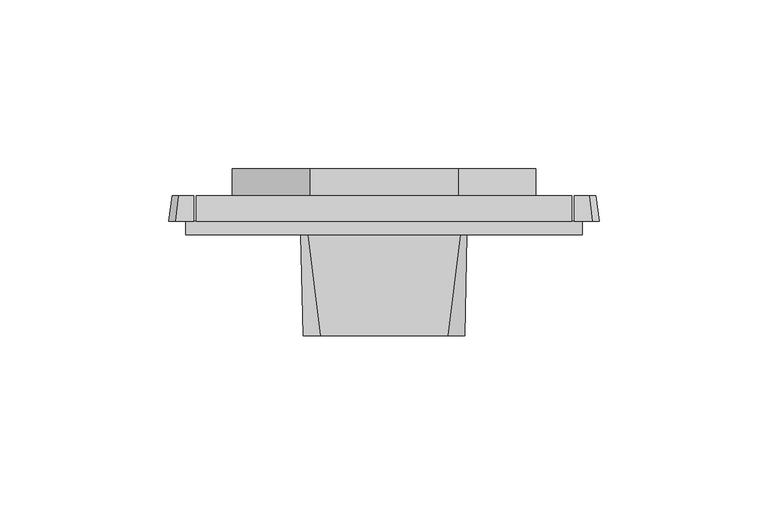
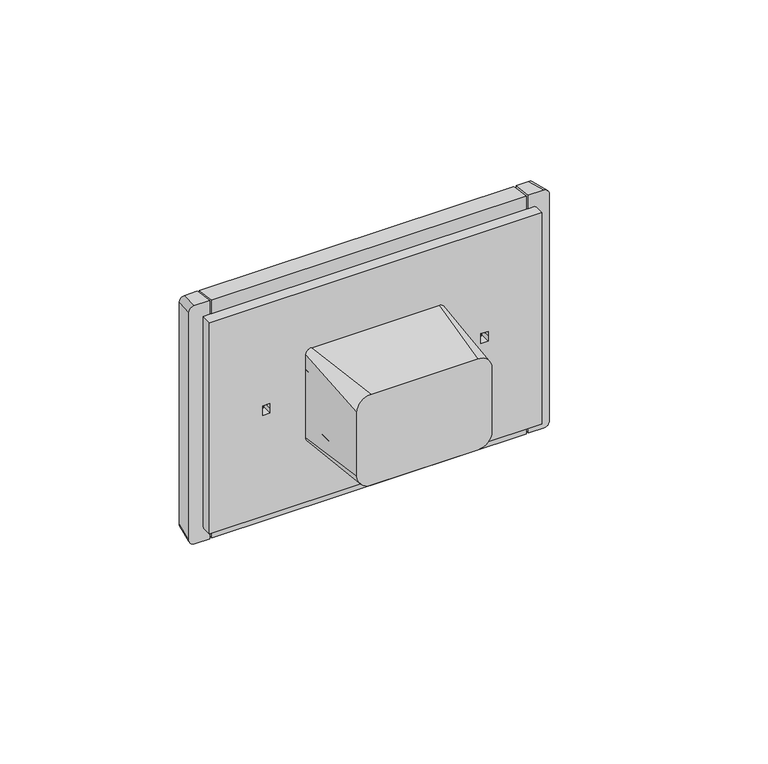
"""IFC4 building model written with IfcOpenShell, lengths in millimetres: proxy geometry, IEK_Forte&Piano_Розекта 2гн : 230 В PE+шт._FP123."""

from ifc_helpers import new_model, si_unit, point, frame, frame_2d, origin, place, context, project, spatial, polyline, circle_curve, ellipse_curve, trimmed, segment, composite_curve, outline, extrude, source, transform, mapped, element, save
from ifc_brep_helpers import plane_surface, cylinder_surface, revolved_surface, extruded_surface, spline_surface, advanced_brep


def electrical_fixtures_8a3553a3(model_context):
    return source(origin(), model_context, "Body", "SolidModel", [
        extrude(outline(composite_curve([segment(polyline([(-16.488464, 23.7980592), (-19.7261959, 23.7980592)]), True, "CONTINUOUS"), segment(trimmed(circle_curve(frame_2d((0.0, 20.5)), 20.0), [point((-19.7261959, 23.7980592))], [point((-16.488464, 31.8194768))], False, "CARTESIAN"), True, "CONTINUOUS"), segment(polyline([(-16.488464, 31.8194768), (-16.488464, 23.7980592)]), True, "CONTINUOUS")], self_intersect=False)), frame((0.0, 3.5, 0.0), z_axis=(0.0, 1.0, 0.0), x_axis=(0.0, 0.0, 1.0)), (0.0, 0.0, 1.0), 11.7142117),
        extrude(outline(composite_curve([segment(polyline([(-16.488464, 17.2019408), (-16.488464, 9.1805232)]), True, "CONTINUOUS"), segment(trimmed(circle_curve(frame_2d((0.0, 20.5)), 20.0), [point((-16.488464, 9.1805232))], [point((-19.7261959, 17.2019408))], False, "CARTESIAN"), True, "CONTINUOUS"), segment(polyline([(-19.7261959, 17.2019408), (-16.488464, 17.2019408)]), True, "CONTINUOUS")], self_intersect=False)), frame((0.0, 3.5, 0.0), z_axis=(0.0, 1.0, 0.0), x_axis=(0.0, 0.0, 1.0)), (0.0, 0.0, 1.0), 11.7142117),
        extrude(outline(composite_curve([segment(polyline([(16.488464, 23.7980592), (16.488464, 31.8194768)]), True, "CONTINUOUS"), segment(trimmed(circle_curve(frame_2d((0.0, 20.5)), 20.0), [point((16.488464, 31.8194768))], [point((19.7261959, 23.7980592))], False, "CARTESIAN"), True, "CONTINUOUS"), segment(polyline([(19.7261959, 23.7980592), (16.488464, 23.7980592)]), True, "CONTINUOUS")], self_intersect=False)), frame((0.0, 3.5, 0.0), z_axis=(0.0, 1.0, 0.0), x_axis=(0.0, 0.0, 1.0)), (0.0, 0.0, 1.0), 11.7142117),
        extrude(outline(composite_curve([segment(polyline([(16.488464, 17.2019408), (19.7261959, 17.2019408)]), True, "CONTINUOUS"), segment(trimmed(circle_curve(frame_2d((0.0, 20.5)), 20.0), [point((19.7261959, 17.2019408))], [point((16.488464, 9.1805232))], False, "CARTESIAN"), True, "CONTINUOUS"), segment(polyline([(16.488464, 9.1805232), (16.488464, 17.2019408)]), True, "CONTINUOUS")], self_intersect=False)), frame((0.0, 3.5, 0.0), z_axis=(0.0, 1.0, 0.0), x_axis=(0.0, 0.0, 1.0)), (0.0, 0.0, 1.0), 11.7142117),
        extrude(outline(composite_curve([segment(polyline([(-16.488464, -17.2019408), (-19.7261959, -17.2019408)]), True, "CONTINUOUS"), segment(trimmed(circle_curve(frame_2d((0.0, -20.5)), 20.0), [point((-19.7261959, -17.2019408))], [point((-16.488464, -9.1805232))], False, "CARTESIAN"), True, "CONTINUOUS"), segment(polyline([(-16.488464, -9.1805232), (-16.488464, -17.2019408)]), True, "CONTINUOUS")], self_intersect=False)), frame((0.0, 3.5, 0.0), z_axis=(0.0, 1.0, 0.0), x_axis=(0.0, 0.0, 1.0)), (0.0, 0.0, 1.0), 11.7142117),
        extrude(outline(composite_curve([segment(polyline([(-16.488464, -23.7980592), (-16.488464, -31.8194768)]), True, "CONTINUOUS"), segment(trimmed(circle_curve(frame_2d((0.0, -20.5)), 20.0), [point((-16.488464, -31.8194768))], [point((-19.7261959, -23.7980592))], False, "CARTESIAN"), True, "CONTINUOUS"), segment(polyline([(-19.7261959, -23.7980592), (-16.488464, -23.7980592)]), True, "CONTINUOUS")], self_intersect=False)), frame((0.0, 3.5, 0.0), z_axis=(0.0, 1.0, 0.0), x_axis=(0.0, 0.0, 1.0)), (0.0, 0.0, 1.0), 11.7142117),
        extrude(outline(composite_curve([segment(polyline([(16.488464, -17.2019408), (16.488464, -9.1805232)]), True, "CONTINUOUS"), segment(trimmed(circle_curve(frame_2d((0.0, -20.5)), 20.0), [point((16.488464, -9.1805232))], [point((19.7261959, -17.2019408))], False, "CARTESIAN"), True, "CONTINUOUS"), segment(polyline([(19.7261959, -17.2019408), (16.488464, -17.2019408)]), True, "CONTINUOUS")], self_intersect=False)), frame((0.0, 3.5, 0.0), z_axis=(0.0, 1.0, 0.0), x_axis=(0.0, 0.0, 1.0)), (0.0, 0.0, 1.0), 11.7142117),
        extrude(outline(composite_curve([segment(polyline([(16.488464, -23.7980592), (19.7261959, -23.7980592)]), True, "CONTINUOUS"), segment(trimmed(circle_curve(frame_2d((0.0, -20.5)), 20.0), [point((19.7261959, -23.7980592))], [point((16.488464, -31.8194768))], False, "CARTESIAN"), True, "CONTINUOUS"), segment(polyline([(16.488464, -31.8194768), (16.488464, -23.7980592)]), True, "CONTINUOUS")], self_intersect=False)), frame((0.0, 3.5, 0.0), z_axis=(0.0, 1.0, 0.0), x_axis=(0.0, 0.0, 1.0)), (0.0, 0.0, 1.0), 11.7142117),
        advanced_brep(
        [(18.8462421, -30.0, -17.0), (23.8462421, -30.0, -12.0), (23.8462421, -30.0, 12.0), (18.8462421, -30.0, 17.0), (-18.8537225, -30.0, 17.0), (-23.8537225, -30.0, 12.0), (-23.8537225, -30.0, -12.0), (-18.8537225, -30.0, -17.0), (22.5422228, 0.0, -17.5), (-22.5960064, 0.0, -17.5), (-24.5960064, 0.0, -15.5), (-24.5960064, 0.0, 15.5), (-22.5960064, 0.0, 17.5), (22.5422228, 0.0, 17.5), (24.5422228, 0.0, 15.5), (24.5422228, 0.0, -15.5), (20.5, 0.0, -6.3904783), (20.5, 0.0, -11.8753617), (20.5, 0.0, 3.0105286), (20.5, 0.0, -3.0105286), (20.5, 0.0, 11.8753617), (20.5, 0.0, 6.3904783), (1.1719153, 0.0, -1.7917908), (3.6719153, 0.0, -1.7917908), (3.6719153, 0.0, 0.0), (3.6719153, 0.0, 1.7917908), (1.1719153, 0.0, 1.7917908), (1.1719153, 0.0, 0.0), (-20.5, 0.0, -6.3904783), (-20.5, 0.0, -11.8753617), (-20.5, 0.0, 3.0105286), (-20.5, 0.0, -3.0105286), (-20.5, 0.0, 11.8753617), (-20.5, 0.0, 6.3904783), (-1.1719153, 0.0, -1.7917908), (-1.1719153, 0.0, 0.0), (-1.1719153, 0.0, 1.7917908), (-3.6719153, 0.0, 1.7917908), (-3.6719153, 0.0, 0.0), (-3.6719153, 0.0, -1.7917908), (20.5, -10.4962918, -6.3904783), (20.5, -10.4962918, -11.8753617), (20.5, -10.4962918, 3.0105286), (20.5, -10.4962918, -3.0105286), (20.5, -10.4962918, 11.8753617), (20.5, -10.4962918, 6.3904783), (1.1719153, -10.4962918, -1.7917908), (1.1719153, -10.4962918, 0.0), (1.1719153, -10.4962918, 1.7917908), (3.6719153, -10.4962918, 1.7917908), (3.6719153, -10.4962918, 0.0), (3.6719153, -10.4962918, -1.7917908), (-20.5, -10.4962918, -6.3904783), (-20.5, -10.4962918, -11.8753617), (-20.5, -10.4962918, 3.0105286), (-20.5, -10.4962918, -3.0105286), (-20.5, -10.4962918, 11.8753617), (-20.5, -10.4962918, 6.3904783), (-1.1719153, -10.4962918, -1.7917908), (-3.6719153, -10.4962918, -1.7917908), (-3.6719153, -10.4962918, 0.0), (-3.6719153, -10.4962918, 1.7917908), (-1.1719153, -10.4962918, 1.7917908), (-1.1719153, -10.4962918, 0.0)],
        [
            (0, 1, circle_curve(frame((18.8462421, -30.0, -12.0), z_axis=(0.0, -1.0, 0.0), x_axis=(0.0, 0.0, -1.0)), 5.0)),
            (1, 2),
            (2, 3, circle_curve(frame((18.8462421, -30.0, 12.0), z_axis=(0.0, -1.0, 0.0), x_axis=(0.0, 0.0, -1.0)), 5.0)),
            (3, 4),
            (4, 5, circle_curve(frame((-18.8537225, -30.0, 12.0), z_axis=(0.0, -1.0, 0.0), x_axis=(0.0, 0.0, -1.0)), 5.0)),
            (5, 6),
            (6, 7, circle_curve(frame((-18.8537225, -30.0, -12.0), z_axis=(0.0, -1.0, 0.0), x_axis=(0.0, 0.0, -1.0)), 5.0)),
            (7, 0),
            (8, 9),
            (9, 10, circle_curve(frame((-22.5960064, 0.0, -15.5), z_axis=(0.0, 1.0, 0.0), x_axis=(0.0, 0.0, -1.0)), 2.0)),
            (10, 11),
            (11, 12, circle_curve(frame((-22.5960064, 0.0, 15.5), z_axis=(0.0, 1.0, 0.0), x_axis=(0.0, 0.0, -1.0)), 2.0)),
            (12, 13),
            (13, 14, circle_curve(frame((22.5422228, 0.0, 15.5), z_axis=(0.0, 1.0, 0.0), x_axis=(0.0, 0.0, -1.0)), 2.0)),
            (14, 15),
            (15, 8, circle_curve(frame((22.5422228, 0.0, -15.5), z_axis=(0.0, 1.0, 0.0), x_axis=(0.0, 0.0, -1.0)), 2.0)),
            (16, 17, circle_curve(frame((20.5, 0.0, -9.13292), z_axis=(0.0, -1.0, 0.0), x_axis=(0.0, 0.0, -1.0)), 2.7424417)),
            (17, 16, circle_curve(frame((20.5, 0.0, -9.13292), z_axis=(0.0, -1.0, 0.0), x_axis=(0.0, 0.0, -1.0)), 2.7424417)),
            (18, 19, circle_curve(frame((20.5, 0.0, 0.0), z_axis=(0.0, -1.0, 0.0), x_axis=(0.0, 0.0, -1.0)), 3.0105286)),
            (19, 18, circle_curve(frame((20.5, 0.0, 0.0), z_axis=(0.0, -1.0, 0.0), x_axis=(0.0, 0.0, -1.0)), 3.0105286)),
            (20, 21, circle_curve(frame((20.5, 0.0, 9.13292), z_axis=(0.0, -1.0, 0.0), x_axis=(0.0, 0.0, -1.0)), 2.7424417)),
            (21, 20, circle_curve(frame((20.5, 0.0, 9.13292), z_axis=(0.0, -1.0, 0.0), x_axis=(0.0, 0.0, -1.0)), 2.7424417)),
            (22, 23),
            (23, 24),
            (24, 25),
            (25, 26),
            (26, 27),
            (27, 22),
            (28, 29, circle_curve(frame((-20.5, 0.0, -9.13292), z_axis=(0.0, -1.0, 0.0), x_axis=(0.0, 0.0, -1.0)), 2.7424417)),
            (29, 28, circle_curve(frame((-20.5, 0.0, -9.13292), z_axis=(0.0, -1.0, 0.0), x_axis=(0.0, 0.0, -1.0)), 2.7424417)),
            (30, 31, circle_curve(frame((-20.5, 0.0, 0.0), z_axis=(0.0, -1.0, 0.0), x_axis=(0.0, 0.0, -1.0)), 3.0105286)),
            (31, 30, circle_curve(frame((-20.5, 0.0, 0.0), z_axis=(0.0, -1.0, 0.0), x_axis=(0.0, 0.0, -1.0)), 3.0105286)),
            (32, 33, circle_curve(frame((-20.5, 0.0, 9.13292), z_axis=(0.0, -1.0, 0.0), x_axis=(0.0, 0.0, -1.0)), 2.7424417)),
            (33, 32, circle_curve(frame((-20.5, 0.0, 9.13292), z_axis=(0.0, -1.0, 0.0), x_axis=(0.0, 0.0, -1.0)), 2.7424417)),
            (34, 35),
            (35, 36),
            (36, 37),
            (37, 38),
            (38, 39),
            (39, 34),
            (7, 9),
            (8, 0),
            (6, 10),
            (5, 11),
            (4, 12),
            (3, 13),
            (15, 1),
            (14, 2),
            (40, 41, circle_curve(frame((20.5, -10.4962918, -9.13292), z_axis=(0.0, 1.0, 0.0), x_axis=(0.0, 0.0, -1.0)), 2.7424417)),
            (41, 40, circle_curve(frame((20.5, -10.4962918, -9.13292), z_axis=(0.0, 1.0, 0.0), x_axis=(0.0, 0.0, -1.0)), 2.7424417)),
            (42, 43, circle_curve(frame((20.5, -10.4962918, 0.0), z_axis=(0.0, 1.0, 0.0), x_axis=(0.0, 0.0, -1.0)), 3.0105286)),
            (43, 42, circle_curve(frame((20.5, -10.4962918, 0.0), z_axis=(0.0, 1.0, 0.0), x_axis=(0.0, 0.0, -1.0)), 3.0105286)),
            (44, 45, circle_curve(frame((20.5, -10.4962918, 9.13292), z_axis=(0.0, 1.0, 0.0), x_axis=(0.0, 0.0, -1.0)), 2.7424417)),
            (45, 44, circle_curve(frame((20.5, -10.4962918, 9.13292), z_axis=(0.0, 1.0, 0.0), x_axis=(0.0, 0.0, -1.0)), 2.7424417)),
            (46, 47),
            (47, 48),
            (48, 49),
            (49, 50),
            (50, 51),
            (51, 46),
            (52, 53, circle_curve(frame((-20.5, -10.4962918, -9.13292), z_axis=(0.0, 1.0, 0.0), x_axis=(0.0, 0.0, -1.0)), 2.7424417)),
            (53, 52, circle_curve(frame((-20.5, -10.4962918, -9.13292), z_axis=(0.0, 1.0, 0.0), x_axis=(0.0, 0.0, -1.0)), 2.7424417)),
            (54, 55, circle_curve(frame((-20.5, -10.4962918, 0.0), z_axis=(0.0, 1.0, 0.0), x_axis=(0.0, 0.0, -1.0)), 3.0105286)),
            (55, 54, circle_curve(frame((-20.5, -10.4962918, 0.0), z_axis=(0.0, 1.0, 0.0), x_axis=(0.0, 0.0, -1.0)), 3.0105286)),
            (56, 57, circle_curve(frame((-20.5, -10.4962918, 9.13292), z_axis=(0.0, 1.0, 0.0), x_axis=(0.0, 0.0, -1.0)), 2.7424417)),
            (57, 56, circle_curve(frame((-20.5, -10.4962918, 9.13292), z_axis=(0.0, 1.0, 0.0), x_axis=(0.0, 0.0, -1.0)), 2.7424417)),
            (58, 59),
            (59, 60),
            (60, 61),
            (61, 62),
            (62, 63),
            (63, 58),
            (41, 17),
            (16, 40),
            (43, 19),
            (18, 42),
            (45, 21),
            (20, 44),
            (51, 23),
            (22, 46),
            (50, 24),
            (49, 25),
            (48, 26),
            (47, 27),
            (53, 29),
            (28, 52),
            (55, 31),
            (30, 54),
            (57, 33),
            (32, 56),
            (63, 35),
            (34, 58),
            (62, 36),
            (61, 37),
            (60, 38),
            (59, 39),
        ],
        [
            plane_surface(frame((-0.0037402, -30.0, 0.0), z_axis=(0.0, -1.0, 0.0), x_axis=(1.0, 0.0, 1.4992810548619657e-12))),
            plane_surface(frame((-0.0268918, 0.0, 0.0), z_axis=(0.0, 1.0, 0.0), x_axis=(1.0, 0.0, 1.4992810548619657e-12))),
            plane_surface(frame((-0.0268918, 0.0, -17.5), z_axis=(0.0, -0.016664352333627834, -0.9998611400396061), x_axis=(1.0, 0.0, 0.0))),
            spline_surface(2, 1, [[(-24.5960064, 0.0, -15.5), (-23.8537225, -30.0, -12.0)], [(-24.5960064, 0.0, -17.5), (-23.8537225, -30.0, -17.0)], [(-22.5960064, 0.0, -17.5), (-18.8537225, -30.0, -17.0)]], [3, 3], [2, 2], [0.0, 1.0], [0.0, 1.0], weights=[[1.0, 1.0], [0.7071067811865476, 0.7071067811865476], [1.0, 1.0]]),
            plane_surface(frame((-24.5960064, 0.0, 0.0), z_axis=(-0.9996940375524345, -0.02473522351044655, 0.0), x_axis=(0.0, 0.0, -1.0))),
            spline_surface(2, 1, [[(-22.5960064, 0.0, 17.5), (-18.8537225, -30.0, 17.0)], [(-24.5960064, 0.0, 17.5), (-23.8537225, -30.0, 17.0)], [(-24.5960064, 0.0, 15.5), (-23.8537225, -30.0, 12.0)]], [3, 3], [2, 2], [0.0, 1.0], [0.0, 1.0], weights=[[1.0, 1.0], [0.7071067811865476, 0.7071067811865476], [1.0, 1.0]]),
            plane_surface(frame((-0.0268918, 0.0, 17.5), z_axis=(0.0, -0.016664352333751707, 0.999861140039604), x_axis=(-1.0, 0.0, 0.0))),
            spline_surface(2, 1, [[(22.5422228, 0.0, -17.5), (18.8462421, -30.0, -17.0)], [(24.5422228, 0.0, -17.5), (23.8462421, -30.0, -17.0)], [(24.5422228, 0.0, -15.5), (23.8462421, -30.0, -12.0)]], [3, 3], [2, 2], [0.0, 1.0], [0.0, 1.0], weights=[[1.0, 1.0], [0.7071067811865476, 0.7071067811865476], [1.0, 1.0]]),
            plane_surface(frame((24.5422228, 0.0, 0.0), z_axis=(0.9997310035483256, -0.023193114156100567, 0.0), x_axis=(0.0, 0.0, 1.0))),
            spline_surface(2, 1, [[(24.5422228, 0.0, 15.5), (23.8462421, -30.0, 12.0)], [(24.5422228, 0.0, 17.5), (23.8462421, -30.0, 17.0)], [(22.5422228, 0.0, 17.5), (18.8462421, -30.0, 17.0)]], [3, 3], [2, 2], [0.0, 1.0], [0.0, 1.0], weights=[[1.0, 1.0], [0.7071067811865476, 0.7071067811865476], [1.0, 1.0]]),
            plane_surface(frame((20.5, -10.4962918, -11.8753617), z_axis=(0.0, 1.0, 0.0), x_axis=(1.0, 0.0, 0.0))),
            revolved_surface(polyline([(20.5, -10.4962918, -11.875361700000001), (20.5, 0.0, -11.875361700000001)]), (20.5, 4.0, -9.13292), (0.0, -1.0, 0.0)),
            revolved_surface(polyline([(20.5, -10.4962918, -3.0105286), (20.5, 0.0, -3.0105286)]), (20.5, 1.0, 0.0), (0.0, -1.0, 0.0)),
            revolved_surface(polyline([(20.5, -10.4962918, 6.3904783), (20.5, 0.0, 6.3904783)]), (20.5, 1.0, 9.13292), (0.0, -1.0, 0.0)),
            plane_surface(frame((1.1719153, -10.4962918, -1.7917908), z_axis=(0.0, 0.0, 1.0), x_axis=(0.0, 1.0, 0.0))),
            plane_surface(frame((3.6719153, -10.4962918, -1.7917908), z_axis=(-1.0, 0.0, 0.0), x_axis=(0.0, 1.0, 0.0))),
            plane_surface(frame((3.6719153, -10.4962918, 0.0), z_axis=(-1.0, 0.0, 0.0), x_axis=(0.0, 1.0, 0.0))),
            plane_surface(frame((3.6719153, -10.4962918, 1.7917908), z_axis=(0.0, 0.0, -1.0), x_axis=(0.0, 1.0, 0.0))),
            plane_surface(frame((1.1719153, -10.4962918, 1.7917908), z_axis=(1.0, 0.0, 0.0), x_axis=(0.0, 1.0, 0.0))),
            plane_surface(frame((1.1719153, -10.4962918, 0.0), z_axis=(1.0, 0.0, 0.0), x_axis=(0.0, 1.0, 0.0))),
            revolved_surface(polyline([(-20.5, -10.4962918, -11.875361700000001), (-20.5, 0.0, -11.875361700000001)]), (-20.5, 1.0, -9.13292), (0.0, -1.0, 0.0)),
            revolved_surface(polyline([(-20.5, -10.4962918, -3.0105286), (-20.5, 0.0, -3.0105286)]), (-20.5, 1.0, 0.0), (0.0, -1.0, 0.0)),
            revolved_surface(polyline([(-20.5, -10.4962918, 6.3904783), (-20.5, 0.0, 6.3904783)]), (-20.5, 1.0, 9.13292), (0.0, -1.0, 0.0)),
            plane_surface(frame((-1.1719153, -10.4962918, -1.7917908), z_axis=(-1.0, 0.0, 0.0), x_axis=(0.0, 1.0, 0.0))),
            plane_surface(frame((-1.1719153, -10.4962918, 0.0), z_axis=(-1.0, 0.0, 0.0), x_axis=(0.0, 1.0, 0.0))),
            plane_surface(frame((-1.1719153, -10.4962918, 1.7917908), z_axis=(0.0, 0.0, -1.0), x_axis=(0.0, 1.0, 0.0))),
            plane_surface(frame((-3.6719153, -10.4962918, 1.7917908), z_axis=(1.0, 0.0, 0.0), x_axis=(0.0, 1.0, 0.0))),
            plane_surface(frame((-3.6719153, -10.4962918, 0.0), z_axis=(1.0, 0.0, 0.0), x_axis=(0.0, 1.0, 0.0))),
            plane_surface(frame((-3.6719153, -10.4962918, -1.7917908), z_axis=(0.0, 0.0, 1.0), x_axis=(0.0, 1.0, 0.0))),
        ],
        [
            (0, [[1, 2, 3, 4, 5, 6, 7, 8]]),
            (1, [[9, 10, 11, 12, 13, 14, 15, 16], [17, 18], [19, 20], [21, 22], [23, 24, 25, 26, 27, 28], [29, 30], [31, 32], [33, 34], [35, 36, 37, 38, 39, 40]]),
            (2, [[-8, 41, -9, 42]]),
            (3, [[-7, 43, -10, -41]]),
            (4, [[-6, 44, -11, -43]]),
            (5, [[-5, 45, -12, -44]]),
            (6, [[-4, 46, -13, -45]]),
            (7, [[-1, -42, -16, 47]]),
            (8, [[-2, -47, -15, 48]]),
            (9, [[-3, -48, -14, -46]]),
            (10, [[49, 50]]),
            (10, [[51, 52]]),
            (10, [[53, 54]]),
            (10, [[55, 56, 57, 58, 59, 60]]),
            (10, [[61, 62]]),
            (10, [[63, 64]]),
            (10, [[65, 66]]),
            (10, [[67, 68, 69, 70, 71, 72]]),
            (11, [[-50, 73, -17, 74]]),
            (11, [[-49, -74, -18, -73]]),
            (12, [[-52, 75, -19, 76]]),
            (12, [[-51, -76, -20, -75]]),
            (13, [[-54, 77, -21, 78]]),
            (13, [[-53, -78, -22, -77]]),
            (14, [[-60, 79, -23, 80]]),
            (15, [[-59, 81, -24, -79]]),
            (16, [[-58, 82, -25, -81]]),
            (17, [[-57, 83, -26, -82]]),
            (18, [[-56, 84, -27, -83]]),
            (19, [[-55, -80, -28, -84]]),
            (20, [[-62, 85, -29, 86]]),
            (20, [[-61, -86, -30, -85]]),
            (21, [[-64, 87, -31, 88]]),
            (21, [[-63, -88, -32, -87]]),
            (22, [[-66, 89, -33, 90]]),
            (22, [[-65, -90, -34, -89]]),
            (23, [[-72, 91, -35, 92]]),
            (24, [[-71, 93, -36, -91]]),
            (25, [[-70, 94, -37, -93]]),
            (26, [[-69, 95, -38, -94]]),
            (27, [[-68, 96, -39, -95]]),
            (28, [[-67, -92, -40, -96]]),
        ],
    ),
        advanced_brep(
        [(-20.5, 4.3649081, 0.0), (-17.6013083, 3.578125, 0.0), (-23.3986917, 3.578125, 0.0), (-17.6013083, 1.8, 0.0), (-23.3986917, 1.8, 0.0), (-20.5, 1.8, 0.0)],
        [
            (0, 1, ellipse_curve(frame((-20.34375, 3.578125, 0.0), z_axis=(0.0, 0.0, -1.0), x_axis=(1.0, 0.0, 0.0)), 2.7424417, 0.7880633)),
            (1, 2, circle_curve(frame((-20.5, 3.578125, 0.0), z_axis=(0.0, 1.0, 0.0), x_axis=(1.0, 0.0, 0.0)), 2.8986917)),
            (2, 0, ellipse_curve(frame((-20.65625, 3.578125, 0.0), z_axis=(0.0, 0.0, -1.0), x_axis=(-1.0, 0.0, 0.0)), 2.7424417, 0.7880633)),
            (2, 1, circle_curve(frame((-20.5, 3.578125, 0.0), z_axis=(0.0, 1.0, 0.0), x_axis=(1.0, 0.0, 0.0)), 2.8986917)),
            (1, 3),
            (3, 4, circle_curve(frame((-20.5, 1.8, 0.0), z_axis=(0.0, 1.0, 0.0), x_axis=(1.0, 0.0, 0.0)), 2.8986917)),
            (4, 2),
            (4, 3, circle_curve(frame((-20.5, 1.8, 0.0), z_axis=(0.0, 1.0, 0.0), x_axis=(1.0, 0.0, 0.0)), 2.8986917)),
            (3, 5),
            (5, 4),
        ],
        [
            revolved_surface(trimmed(ellipse_curve(frame((-20.34375, 3.578125, 0.0), z_axis=(0.0, 0.0, 1.0), x_axis=(1.0, 0.0, 0.0)), 2.7424417, 0.7880633), [point((-17.6013083, 3.578125, 0.0))], [point((-20.5, 4.3649081, 0.0))], True, "CARTESIAN"), (-20.5, 0.4771866, 0.0), (0.0, 1.0, 0.0)),
            cylinder_surface(frame((-20.5, 0.4771866, 0.0), z_axis=(0.0, 1.0, 0.0), x_axis=(1.0, 0.0, 0.0)), 2.8986917),
            plane_surface(frame((-20.5, 1.8, 0.0), z_axis=(0.0, -1.0, 0.0), x_axis=(1.0, 0.0, 0.0))),
        ],
        [
            (0, [[1, 2, 3]]),
            (0, [[-3, 4, -1]]),
            (1, [[-2, 5, 6, 7]]),
            (1, [[-4, -7, 8, -5]]),
            (2, [[-6, 9, 10]]),
            (2, [[-8, -10, -9]]),
        ],
    ),
        advanced_brep(
        [(20.5, 4.3649081, 0.0), (23.3986917, 3.578125, 0.0), (17.6013083, 3.578125, 0.0), (23.3986917, 1.8, 0.0), (17.6013083, 1.8, 0.0), (20.5, 1.8, 0.0)],
        [
            (0, 1, ellipse_curve(frame((20.65625, 3.578125, 0.0), z_axis=(0.0, 0.0, -1.0), x_axis=(1.0, 0.0, 0.0)), 2.7424417, 0.7880633)),
            (1, 2, circle_curve(frame((20.5, 3.578125, 0.0), z_axis=(0.0, 1.0, 0.0), x_axis=(1.0, 0.0, 0.0)), 2.8986917)),
            (2, 0, ellipse_curve(frame((20.34375, 3.578125, 0.0), z_axis=(0.0, 0.0, -1.0), x_axis=(-1.0, 0.0, 0.0)), 2.7424417, 0.7880633)),
            (2, 1, circle_curve(frame((20.5, 3.578125, 0.0), z_axis=(0.0, 1.0, 0.0), x_axis=(1.0, 0.0, 0.0)), 2.8986917)),
            (1, 3),
            (3, 4, circle_curve(frame((20.5, 1.8, 0.0), z_axis=(0.0, 1.0, 0.0), x_axis=(1.0, 0.0, 0.0)), 2.8986917)),
            (4, 2),
            (4, 3, circle_curve(frame((20.5, 1.8, 0.0), z_axis=(0.0, 1.0, 0.0), x_axis=(1.0, 0.0, 0.0)), 2.8986917)),
            (3, 5),
            (5, 4),
        ],
        [
            revolved_surface(trimmed(ellipse_curve(frame((20.65625, 3.578125, 0.0), z_axis=(0.0, 0.0, 1.0), x_axis=(1.0, 0.0, 0.0)), 2.7424417, 0.7880633), [point((23.3986917, 3.578125, 0.0))], [point((20.5, 4.3649081, 0.0))], True, "CARTESIAN"), (20.5, 0.4771866, 0.0), (0.0, 1.0, 0.0)),
            cylinder_surface(frame((20.5, 0.4771866, 0.0), z_axis=(0.0, 1.0, 0.0), x_axis=(1.0, 0.0, 0.0)), 2.8986917),
            plane_surface(frame((20.5, 1.8, 0.0), z_axis=(0.0, -1.0, 0.0), x_axis=(1.0, 0.0, 0.0))),
        ],
        [
            (0, [[1, 2, 3]]),
            (0, [[-3, 4, -1]]),
            (1, [[-2, 5, 6, 7]]),
            (1, [[-4, -7, 8, -5]]),
            (2, [[-6, 9, 10]]),
            (2, [[-8, -10, -9]]),
        ],
    ),
        extrude(outline(composite_curve([segment(trimmed(circle_curve(frame_2d((-39.7322549, 12.5501956)), 1.2539127), [point((-39.8739261, 13.7960794))], [point((-38.8510967, 11.6580873))], False, "CARTESIAN"), True, "CONTINUOUS"), segment(polyline([(-38.8510967, 11.6580873), (-37.8437766, 3.0), (-39.1024531, 3.0), (-39.8739261, 13.7960794)]), True, "CONTINUOUS")], self_intersect=False)), frame((0.0, 0.0, -1.5), z_axis=(0.0, 0.0, 1.0), x_axis=(1.0, 0.0, 0.0)), (0.0, 0.0, 1.0), 3.0),
        extrude(outline(composite_curve([segment(polyline([(-1.1260739, 13.7960794), (-1.9832973, 1.8), (-3.2958366, 1.8), (-2.1489033, 11.6580873)]), True, "CONTINUOUS"), segment(trimmed(circle_curve(frame_2d((-1.2677451, 12.5501956)), 1.2539127), [point((-2.1489033, 11.6580873))], [point((-1.1260739, 13.7960794))], False, "CARTESIAN"), True, "CONTINUOUS")], self_intersect=False)), frame((0.0, 0.0, -1.5), z_axis=(0.0, 0.0, 1.0), x_axis=(1.0, 0.0, 0.0)), (0.0, 0.0, 1.0), 3.0),
        extrude(outline(composite_curve([segment(polyline([(39.8739261, 13.7960794), (39.1024531, 3.0), (37.8437766, 3.0), (38.8510967, 11.6580873)]), True, "CONTINUOUS"), segment(trimmed(circle_curve(frame_2d((39.7322549, 12.5501956)), 1.2539127), [point((38.8510967, 11.6580873))], [point((39.8739261, 13.7960794))], False, "CARTESIAN"), True, "CONTINUOUS")], self_intersect=False)), frame((0.0, 0.0, -1.5), z_axis=(0.0, 0.0, 1.0), x_axis=(1.0, 0.0, 0.0)), (0.0, 0.0, 1.0), 3.0),
        extrude(outline(composite_curve([segment(trimmed(circle_curve(frame_2d((1.2677451, 12.5501956)), 1.2539127), [point((1.1260739, 13.7960794))], [point((2.1489033, 11.6580873))], False, "CARTESIAN"), True, "CONTINUOUS"), segment(polyline([(2.1489033, 11.6580873), (3.2958366, 1.8), (1.9832973, 1.8), (1.1260739, 13.7960794)]), True, "CONTINUOUS")], self_intersect=False)), frame((0.0, 0.0, -1.5), z_axis=(0.0, 0.0, 1.0), x_axis=(1.0, 0.0, 0.0)), (0.0, 0.0, 1.0), 3.0),
        advanced_brep(
        [(60.75, 11.5, 43.5), (62.75, 11.5, 41.5), (62.75, 11.5, -41.5), (60.75, 11.5, -43.5), (56.3576533, 11.5, -43.5), (56.3576533, 11.5, 43.5), (-60.75, 11.5, -43.5), (-62.75, 11.5, -41.5), (-62.75, 11.5, 41.5), (-60.75, 11.5, 43.5), (-56.3576533, 11.5, 43.5), (-56.3576533, 11.5, -43.5), (-55.5728499, 11.5, 43.5), (55.5728499, 11.5, 43.5), (55.5728499, 11.5, -43.5), (-55.5728499, 11.5, -43.5), (-0.5, 11.5, 0.0), (-40.5, 11.5, 0.0), (40.5, 11.5, 0.0), (0.5, 11.5, 0.0), (-61.75, 4.0, 44.5), (-63.75, 4.0, 42.5), (-63.75, 4.0, -42.5), (-61.75, 4.0, -44.5), (-56.3576533, 4.0, -44.5), (-56.3576533, 4.0, -39.5), (-58.75, 4.0, -39.5), (-58.75, 4.0, 39.5), (-56.3576533, 4.0, 39.5), (-56.3576533, 4.0, 44.5), (61.75, 4.0, -44.5), (63.75, 4.0, -42.5), (63.75, 4.0, 42.5), (61.75, 4.0, 44.5), (56.3576533, 4.0, 44.5), (56.3576533, 4.0, 39.5), (58.75, 4.0, 39.5), (58.75, 4.0, -39.5), (56.3576533, 4.0, -39.5), (56.3576533, 4.0, -44.5), (-55.5728499, 4.0, 39.5), (55.5728499, 4.0, 39.5), (55.5728499, 4.0, 44.5), (-55.5728499, 4.0, 44.5), (55.5728499, 4.0, -39.5), (-55.5728499, 4.0, -39.5), (-55.5728499, 4.0, -44.5), (55.5728499, 4.0, -44.5), (-58.75, 0.0, 39.5), (-58.75, 0.0, -39.5), (58.75, 0.0, -39.5), (58.75, 0.0, 39.5), (20.5, 0.0, -11.8753617), (20.5, 0.0, -6.3904783), (20.5, 0.0, -3.0105286), (20.5, 0.0, 3.0105286), (20.5, 0.0, 6.3904783), (20.5, 0.0, 11.8753617), (39.8280847, 0.0, 0.0), (39.8280847, 0.0, -1.7917908), (37.3280847, 0.0, -1.7917908), (37.3280847, 0.0, 0.0), (37.3280847, 0.0, 1.7917908), (39.8280847, 0.0, 1.7917908), (3.6719153, 0.0, -1.7917908), (1.1719153, 0.0, -1.7917908), (1.1719153, 0.0, 0.0), (1.1719153, 0.0, 1.7917908), (3.6719153, 0.0, 1.7917908), (3.6719153, 0.0, 0.0), (-20.5, 0.0, -11.8753617), (-20.5, 0.0, -6.3904783), (-20.5, 0.0, -3.0105286), (-20.5, 0.0, 3.0105286), (-20.5, 0.0, 6.3904783), (-20.5, 0.0, 11.8753617), (-37.3280847, 0.0, -1.7917908), (-39.8280847, 0.0, -1.7917908), (-39.8280847, 0.0, 0.0), (-39.8280847, 0.0, 1.7917908), (-37.3280847, 0.0, 1.7917908), (-37.3280847, 0.0, 0.0), (-1.1719153, 0.0, 0.0), (-1.1719153, 0.0, -1.7917908), (-3.6719153, 0.0, -1.7917908), (-3.6719153, 0.0, 0.0), (-3.6719153, 0.0, 1.7917908), (-1.1719153, 0.0, 1.7917908), (20.5, 3.5, -11.8753617), (20.5, 3.5, -6.3904783), (20.5, 3.5, -3.0105286), (20.5, 3.5, 3.0105286), (20.5, 3.5, 6.3904783), (20.5, 3.5, 11.8753617), (39.8280847, 3.5, 0.0), (39.8280847, 3.5, -1.7917908), (39.8280847, 3.5, 1.7917908), (37.3280847, 3.5, 1.7917908), (37.3280847, 3.5, 0.0), (37.3280847, 3.5, -1.7917908), (3.6719153, 3.5, -1.7917908), (1.1719153, 3.5, -1.7917908), (3.6719153, 3.5, 0.0), (3.6719153, 3.5, 1.7917908), (1.1719153, 3.5, 1.7917908), (1.1719153, 3.5, 0.0), (-20.5, 3.5, -11.8753617), (-20.5, 3.5, -6.3904783), (-20.5, 3.5, -3.0105286), (-20.5, 3.5, 3.0105286), (-20.5, 3.5, 6.3904783), (-20.5, 3.5, 11.8753617), (-37.3280847, 3.5, -1.7917908), (-39.8280847, 3.5, -1.7917908), (-37.3280847, 3.5, 0.0), (-37.3280847, 3.5, 1.7917908), (-39.8280847, 3.5, 1.7917908), (-39.8280847, 3.5, 0.0), (-1.1719153, 3.5, 0.0), (-1.1719153, 3.5, -1.7917908), (-1.1719153, 3.5, 1.7917908), (-3.6719153, 3.5, 1.7917908), (-3.6719153, 3.5, 0.0), (-3.6719153, 3.5, -1.7917908), (-0.5, 3.5, 0.0), (-40.5, 3.5, 0.0), (40.5, 3.5, 0.0), (0.5, 3.5, 0.0)],
        [
            (0, 1, circle_curve(frame((60.75, 11.5, 41.5), z_axis=(0.0, 1.0, 0.0), x_axis=(-1.0, 0.0, 0.0)), 2.0)),
            (1, 2),
            (2, 3, circle_curve(frame((60.75, 11.5, -41.5), z_axis=(0.0, 1.0, 0.0), x_axis=(-1.0, 0.0, 0.0)), 2.0)),
            (3, 4),
            (4, 5),
            (5, 0),
            (6, 7, circle_curve(frame((-60.75, 11.5, -41.5), z_axis=(0.0, 1.0, 0.0), x_axis=(-1.0, 0.0, 0.0)), 2.0)),
            (7, 8),
            (8, 9, circle_curve(frame((-60.75, 11.5, 41.5), z_axis=(0.0, 1.0, 0.0), x_axis=(-1.0, 0.0, 0.0)), 2.0)),
            (9, 10),
            (10, 11),
            (11, 6),
            (12, 13),
            (13, 14),
            (14, 15),
            (15, 12),
            (16, 17, circle_curve(frame((-20.5, 11.5, 0.0), z_axis=(0.0, -1.0, 0.0), x_axis=(-1.0, 0.0, 0.0)), 20.0)),
            (17, 16, circle_curve(frame((-20.5, 11.5, 0.0), z_axis=(0.0, -1.0, 0.0), x_axis=(-1.0, 0.0, 0.0)), 20.0)),
            (18, 19, circle_curve(frame((20.5, 11.5, 0.0), z_axis=(0.0, -1.0, 0.0), x_axis=(-1.0, 0.0, 0.0)), 20.0)),
            (19, 18, circle_curve(frame((20.5, 11.5, 0.0), z_axis=(0.0, -1.0, 0.0), x_axis=(-1.0, 0.0, 0.0)), 20.0)),
            (20, 21, circle_curve(frame((-61.75, 4.0, 42.5), z_axis=(0.0, -1.0, 0.0), x_axis=(-1.0, 0.0, 0.0)), 2.0)),
            (21, 22),
            (22, 23, circle_curve(frame((-61.75, 4.0, -42.5), z_axis=(0.0, -1.0, 0.0), x_axis=(-1.0, 0.0, 0.0)), 2.0)),
            (23, 24),
            (24, 25),
            (25, 26),
            (26, 27),
            (27, 28),
            (28, 29),
            (29, 20),
            (30, 31, circle_curve(frame((61.75, 4.0, -42.5), z_axis=(0.0, -1.0, 0.0), x_axis=(-1.0, 0.0, 0.0)), 2.0)),
            (31, 32),
            (32, 33, circle_curve(frame((61.75, 4.0, 42.5), z_axis=(0.0, -1.0, 0.0), x_axis=(-1.0, 0.0, 0.0)), 2.0)),
            (33, 34),
            (34, 35),
            (35, 36),
            (36, 37),
            (37, 38),
            (38, 39),
            (39, 30),
            (40, 41),
            (41, 42),
            (42, 43),
            (43, 40),
            (44, 45),
            (45, 46),
            (46, 47),
            (47, 44),
            (12, 43),
            (42, 13),
            (33, 0),
            (5, 34),
            (9, 20),
            (29, 10),
            (32, 1),
            (31, 2),
            (30, 3),
            (14, 47),
            (46, 15),
            (39, 4),
            (23, 6),
            (11, 24),
            (22, 7),
            (21, 8),
            (48, 49),
            (49, 50),
            (50, 51),
            (51, 48),
            (52, 53, circle_curve(frame((20.5, 0.0, -9.13292), z_axis=(0.0, 1.0, 0.0), x_axis=(0.0, 0.0, -1.0)), 2.7424417)),
            (53, 52, circle_curve(frame((20.5, 0.0, -9.13292), z_axis=(0.0, 1.0, 0.0), x_axis=(0.0, 0.0, -1.0)), 2.7424417)),
            (54, 55, circle_curve(frame((20.5, 0.0, 0.0), z_axis=(0.0, 1.0, 0.0), x_axis=(0.0, 0.0, -1.0)), 3.0105286)),
            (55, 54, circle_curve(frame((20.5, 0.0, 0.0), z_axis=(0.0, 1.0, 0.0), x_axis=(0.0, 0.0, -1.0)), 3.0105286)),
            (56, 57, circle_curve(frame((20.5, 0.0, 9.13292), z_axis=(0.0, 1.0, 0.0), x_axis=(0.0, 0.0, -1.0)), 2.7424417)),
            (57, 56, circle_curve(frame((20.5, 0.0, 9.13292), z_axis=(0.0, 1.0, 0.0), x_axis=(0.0, 0.0, -1.0)), 2.7424417)),
            (58, 59),
            (59, 60),
            (60, 61),
            (61, 62),
            (62, 63),
            (63, 58),
            (64, 65),
            (65, 66),
            (66, 67),
            (67, 68),
            (68, 69),
            (69, 64),
            (70, 71, circle_curve(frame((-20.5, 0.0, -9.13292), z_axis=(0.0, 1.0, 0.0), x_axis=(0.0, 0.0, -1.0)), 2.7424417)),
            (71, 70, circle_curve(frame((-20.5, 0.0, -9.13292), z_axis=(0.0, 1.0, 0.0), x_axis=(0.0, 0.0, -1.0)), 2.7424417)),
            (72, 73, circle_curve(frame((-20.5, 0.0, 0.0), z_axis=(0.0, 1.0, 0.0), x_axis=(0.0, 0.0, -1.0)), 3.0105286)),
            (73, 72, circle_curve(frame((-20.5, 0.0, 0.0), z_axis=(0.0, 1.0, 0.0), x_axis=(0.0, 0.0, -1.0)), 3.0105286)),
            (74, 75, circle_curve(frame((-20.5, 0.0, 9.13292), z_axis=(0.0, 1.0, 0.0), x_axis=(0.0, 0.0, -1.0)), 2.7424417)),
            (75, 74, circle_curve(frame((-20.5, 0.0, 9.13292), z_axis=(0.0, 1.0, 0.0), x_axis=(0.0, 0.0, -1.0)), 2.7424417)),
            (76, 77),
            (77, 78),
            (78, 79),
            (79, 80),
            (80, 81),
            (81, 76),
            (82, 83),
            (83, 84),
            (84, 85),
            (85, 86),
            (86, 87),
            (87, 82),
            (48, 27),
            (26, 49),
            (25, 45),
            (44, 38),
            (37, 50),
            (36, 51),
            (35, 41),
            (40, 28),
            (52, 88),
            (88, 89, circle_curve(frame((20.5, 3.5, -9.13292), z_axis=(0.0, 1.0, 0.0), x_axis=(0.0, 0.0, -1.0)), 2.7424417)),
            (89, 53),
            (89, 88, circle_curve(frame((20.5, 3.5, -9.13292), z_axis=(0.0, 1.0, 0.0), x_axis=(0.0, 0.0, -1.0)), 2.7424417)),
            (54, 90),
            (90, 91, circle_curve(frame((20.5, 3.5, 0.0), z_axis=(0.0, 1.0, 0.0), x_axis=(0.0, 0.0, -1.0)), 3.0105286)),
            (91, 55),
            (91, 90, circle_curve(frame((20.5, 3.5, 0.0), z_axis=(0.0, 1.0, 0.0), x_axis=(0.0, 0.0, -1.0)), 3.0105286)),
            (56, 92),
            (92, 93, circle_curve(frame((20.5, 3.5, 9.13292), z_axis=(0.0, 1.0, 0.0), x_axis=(0.0, 0.0, -1.0)), 2.7424417)),
            (93, 57),
            (93, 92, circle_curve(frame((20.5, 3.5, 9.13292), z_axis=(0.0, 1.0, 0.0), x_axis=(0.0, 0.0, -1.0)), 2.7424417)),
            (58, 94),
            (94, 95),
            (95, 59),
            (63, 96),
            (96, 94),
            (62, 97),
            (97, 96),
            (61, 98),
            (98, 97),
            (60, 99),
            (99, 98),
            (95, 99),
            (64, 100),
            (100, 101),
            (101, 65),
            (69, 102),
            (102, 100),
            (68, 103),
            (103, 102),
            (67, 104),
            (104, 103),
            (66, 105),
            (105, 104),
            (101, 105),
            (70, 106),
            (106, 107, circle_curve(frame((-20.5, 3.5, -9.13292), z_axis=(0.0, 1.0, 0.0), x_axis=(0.0, 0.0, -1.0)), 2.7424417)),
            (107, 71),
            (107, 106, circle_curve(frame((-20.5, 3.5, -9.13292), z_axis=(0.0, 1.0, 0.0), x_axis=(0.0, 0.0, -1.0)), 2.7424417)),
            (72, 108),
            (108, 109, circle_curve(frame((-20.5, 3.5, 0.0), z_axis=(0.0, 1.0, 0.0), x_axis=(0.0, 0.0, -1.0)), 3.0105286)),
            (109, 73),
            (109, 108, circle_curve(frame((-20.5, 3.5, 0.0), z_axis=(0.0, 1.0, 0.0), x_axis=(0.0, 0.0, -1.0)), 3.0105286)),
            (74, 110),
            (110, 111, circle_curve(frame((-20.5, 3.5, 9.13292), z_axis=(0.0, 1.0, 0.0), x_axis=(0.0, 0.0, -1.0)), 2.7424417)),
            (111, 75),
            (111, 110, circle_curve(frame((-20.5, 3.5, 9.13292), z_axis=(0.0, 1.0, 0.0), x_axis=(0.0, 0.0, -1.0)), 2.7424417)),
            (76, 112),
            (112, 113),
            (113, 77),
            (81, 114),
            (114, 112),
            (80, 115),
            (115, 114),
            (79, 116),
            (116, 115),
            (78, 117),
            (117, 116),
            (113, 117),
            (82, 118),
            (118, 119),
            (119, 83),
            (87, 120),
            (120, 118),
            (86, 121),
            (121, 120),
            (85, 122),
            (122, 121),
            (84, 123),
            (123, 122),
            (119, 123),
            (124, 125, circle_curve(frame((-20.5, 3.5, 0.0), z_axis=(0.0, 1.0, 0.0), x_axis=(-1.0, 0.0, 0.0)), 20.0)),
            (125, 124, circle_curve(frame((-20.5, 3.5, 0.0), z_axis=(0.0, 1.0, 0.0), x_axis=(-1.0, 0.0, 0.0)), 20.0)),
            (126, 127, circle_curve(frame((20.5, 3.5, 0.0), z_axis=(0.0, 1.0, 0.0), x_axis=(-1.0, 0.0, 0.0)), 20.0)),
            (127, 126, circle_curve(frame((20.5, 3.5, 0.0), z_axis=(0.0, 1.0, 0.0), x_axis=(-1.0, 0.0, 0.0)), 20.0)),
            (125, 17),
            (16, 124),
            (127, 19),
            (18, 126),
            (25, 28),
            (40, 45),
            (44, 41),
            (35, 38),
        ],
        [
            plane_surface(frame((0.0, 11.5, 0.0), z_axis=(0.0, 1.0, 0.0), x_axis=(1.0, 0.0, 0.0))),
            plane_surface(frame((0.0, 4.0, 0.0), z_axis=(0.0, -1.0, 0.0), x_axis=(1.0, 0.0, 0.0))),
            plane_surface(frame((0.0, 4.0, 44.5), z_axis=(0.0, 0.13216372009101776, 0.9912279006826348), x_axis=(1.0, 0.0, 0.0))),
            extruded_surface(trimmed(circle_curve(frame((61.75, 4.0, 42.5), z_axis=(0.0, 1.0, 0.0), x_axis=(-1.0, 0.0, 0.0)), 2.0), [point((61.75, 4.0, 44.5))], [point((63.75, 4.0, 42.5))], True, "CARTESIAN"), (-1.0, 7.5, -1.0), 7.632168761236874),
            plane_surface(frame((63.75, 4.0, 0.0), z_axis=(0.9912279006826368, 0.13216372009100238, 0.0), x_axis=(0.0, 0.0, -1.0))),
            extruded_surface(trimmed(circle_curve(frame((61.75, 4.0, -42.5), z_axis=(0.0, 1.0, 0.0), x_axis=(-1.0, 0.0, 0.0)), 2.0), [point((63.75, 4.0, -42.5))], [point((61.75, 4.0, -44.5))], True, "CARTESIAN"), (-1.0, 7.5, 1.0), 7.632168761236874),
            plane_surface(frame((0.0, 4.0, -44.5), z_axis=(0.0, 0.13216372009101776, -0.9912279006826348), x_axis=(-1.0, 0.0, 0.0))),
            extruded_surface(trimmed(circle_curve(frame((-61.75, 4.0, -42.5), z_axis=(0.0, 1.0, 0.0), x_axis=(-1.0, 0.0, 0.0)), 2.0), [point((-61.75, 4.0, -44.5))], [point((-63.75, 4.0, -42.5))], True, "CARTESIAN"), (1.0, 7.5, 1.0), 7.632168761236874),
            plane_surface(frame((-63.75, 4.0, 0.0), z_axis=(-0.9912279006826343, 0.13216372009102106, 0.0), x_axis=(0.0, 0.0, 1.0))),
            extruded_surface(trimmed(circle_curve(frame((-61.75, 4.0, 42.5), z_axis=(0.0, 1.0, 0.0), x_axis=(-1.0, 0.0, 0.0)), 2.0), [point((-63.75, 4.0, 42.5))], [point((-61.75, 4.0, 44.5))], True, "CARTESIAN"), (1.0, 7.5, -1.0), 7.632168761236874),
            plane_surface(frame((-58.75, 0.0, 39.5), z_axis=(0.0, -1.0, 0.0), x_axis=(0.0, 0.0, -1.0))),
            plane_surface(frame((-58.75, 0.0, 39.5), z_axis=(-1.0, 0.0, 0.0), x_axis=(0.0, 1.0, 0.0))),
            plane_surface(frame((-58.75, 0.0, -39.5), z_axis=(0.0, 0.0, -1.0), x_axis=(0.0, 1.0, 0.0))),
            plane_surface(frame((58.75, 0.0, -39.5), z_axis=(1.0, 0.0, 0.0), x_axis=(0.0, 1.0, 0.0))),
            plane_surface(frame((58.75, 0.0, 39.5), z_axis=(0.0, 0.0, 1.0), x_axis=(0.0, 1.0, 0.0))),
            revolved_surface(polyline([(20.5, 0.0, -11.875361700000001), (20.5, 3.5, -11.875361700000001)]), (20.5, 4.0, -9.13292), (0.0, -1.0, 0.0)),
            revolved_surface(polyline([(20.5, 0.0, -3.0105286), (20.5, 3.5, -3.0105286)]), (20.5, 1.0, 0.0), (0.0, -1.0, 0.0)),
            revolved_surface(polyline([(20.5, 0.0, 6.3904783), (20.5, 3.5, 6.3904783)]), (20.5, 1.0, 9.13292), (0.0, -1.0, 0.0)),
            plane_surface(frame((39.8280847, -10.4962918, -1.7917908), z_axis=(-1.0, 0.0, 0.0), x_axis=(0.0, 1.0, 0.0))),
            plane_surface(frame((39.8280847, -10.4962918, 0.0), z_axis=(-1.0, 0.0, 0.0), x_axis=(0.0, 1.0, 0.0))),
            plane_surface(frame((39.8280847, -10.4962918, 1.7917908), z_axis=(0.0, 0.0, -1.0), x_axis=(0.0, 1.0, 0.0))),
            plane_surface(frame((37.3280847, -10.4962918, 1.7917908), z_axis=(1.0, 0.0, 0.0), x_axis=(0.0, 1.0, 0.0))),
            plane_surface(frame((37.3280847, -10.4962918, 0.0), z_axis=(1.0, 0.0, 0.0), x_axis=(0.0, 1.0, 0.0))),
            plane_surface(frame((37.3280847, -10.4962918, -1.7917908), z_axis=(0.0, 0.0, 1.0), x_axis=(0.0, 1.0, 0.0))),
            plane_surface(frame((1.1719153, -10.4962918, -1.7917908), z_axis=(0.0, 0.0, 1.0), x_axis=(0.0, 1.0, 0.0))),
            plane_surface(frame((3.6719153, -10.4962918, -1.7917908), z_axis=(-1.0, 0.0, 0.0), x_axis=(0.0, 1.0, 0.0))),
            plane_surface(frame((3.6719153, -10.4962918, 0.0), z_axis=(-1.0, 0.0, 0.0), x_axis=(0.0, 1.0, 0.0))),
            plane_surface(frame((3.6719153, -10.4962918, 1.7917908), z_axis=(0.0, 0.0, -1.0), x_axis=(0.0, 1.0, 0.0))),
            plane_surface(frame((1.1719153, -10.4962918, 1.7917908), z_axis=(1.0, 0.0, 0.0), x_axis=(0.0, 1.0, 0.0))),
            plane_surface(frame((1.1719153, -10.4962918, 0.0), z_axis=(1.0, 0.0, 0.0), x_axis=(0.0, 1.0, 0.0))),
            revolved_surface(polyline([(-20.5, 0.0, -11.875361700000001), (-20.5, 3.5, -11.875361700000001)]), (-20.5, 1.0, -9.13292), (0.0, -1.0, 0.0)),
            revolved_surface(polyline([(-20.5, 0.0, -3.0105286), (-20.5, 3.5, -3.0105286)]), (-20.5, 1.0, 0.0), (0.0, -1.0, 0.0)),
            revolved_surface(polyline([(-20.5, 0.0, 6.3904783), (-20.5, 3.5, 6.3904783)]), (-20.5, 1.0, 9.13292), (0.0, -1.0, 0.0)),
            plane_surface(frame((-39.8280847, -10.4962918, -1.7917908), z_axis=(0.0, 0.0, 1.0), x_axis=(0.0, 1.0, 0.0))),
            plane_surface(frame((-37.3280847, -10.4962918, -1.7917908), z_axis=(-1.0, 0.0, 0.0), x_axis=(0.0, 1.0, 0.0))),
            plane_surface(frame((-37.3280847, -10.4962918, 0.0), z_axis=(-1.0, 0.0, 0.0), x_axis=(0.0, 1.0, 0.0))),
            plane_surface(frame((-37.3280847, -10.4962918, 1.7917908), z_axis=(0.0, 0.0, -1.0), x_axis=(0.0, 1.0, 0.0))),
            plane_surface(frame((-39.8280847, -10.4962918, 1.7917908), z_axis=(1.0, 0.0, 0.0), x_axis=(0.0, 1.0, 0.0))),
            plane_surface(frame((-39.8280847, -10.4962918, 0.0), z_axis=(1.0, 0.0, 0.0), x_axis=(0.0, 1.0, 0.0))),
            plane_surface(frame((-1.1719153, -10.4962918, -1.7917908), z_axis=(-1.0, 0.0, 0.0), x_axis=(0.0, 1.0, 0.0))),
            plane_surface(frame((-1.1719153, -10.4962918, 0.0), z_axis=(-1.0, 0.0, 0.0), x_axis=(0.0, 1.0, 0.0))),
            plane_surface(frame((-1.1719153, -10.4962918, 1.7917908), z_axis=(0.0, 0.0, -1.0), x_axis=(0.0, 1.0, 0.0))),
            plane_surface(frame((-3.6719153, -10.4962918, 1.7917908), z_axis=(1.0, 0.0, 0.0), x_axis=(0.0, 1.0, 0.0))),
            plane_surface(frame((-3.6719153, -10.4962918, 0.0), z_axis=(1.0, 0.0, 0.0), x_axis=(0.0, 1.0, 0.0))),
            plane_surface(frame((-3.6719153, -10.4962918, -1.7917908), z_axis=(0.0, 0.0, 1.0), x_axis=(0.0, 1.0, 0.0))),
            plane_surface(frame((-40.5, 3.5, 0.0), z_axis=(0.0, 1.0, 0.0), x_axis=(0.0, 0.0, -1.0))),
            revolved_surface(polyline([(-40.5, 11.5, 0.0), (-40.5, 3.5, 0.0)]), (-20.5, 3.5, 0.0), (0.0, 1.0, 0.0)),
            revolved_surface(polyline([(0.5, 11.5, 0.0), (0.5, 3.5, 0.0)]), (20.5, 3.0, 0.0), (0.0, 1.0, 0.0)),
            plane_surface(frame((-56.3576533, 4.0, 44.5), z_axis=(0.0, 1.0, 0.0), x_axis=(0.0, 0.0, -1.0))),
            plane_surface(frame((-56.3576533, 11.5, -44.5), z_axis=(1.0, 0.0, 0.0), x_axis=(0.0, -1.0, 0.0))),
            plane_surface(frame((-55.5728499, 11.5, 44.5), z_axis=(-1.0, 0.0, 0.0), x_axis=(0.0, -1.0, 0.0))),
            plane_surface(frame((55.5728499, 11.5, -44.5), z_axis=(1.0, 0.0, 0.0), x_axis=(0.0, -1.0, 0.0))),
            plane_surface(frame((56.3576533, 11.5, 44.5), z_axis=(-1.0, 0.0, 0.0), x_axis=(0.0, -1.0, 0.0))),
        ],
        [
            (0, [[1, 2, 3, 4, 5, 6]]),
            (0, [[7, 8, 9, 10, 11, 12]]),
            (0, [[13, 14, 15, 16], [17, 18], [19, 20]]),
            (1, [[21, 22, 23, 24, 25, 26, 27, 28, 29, 30]]),
            (1, [[31, 32, 33, 34, 35, 36, 37, 38, 39, 40]]),
            (1, [[41, 42, 43, 44]]),
            (1, [[45, 46, 47, 48]]),
            (2, [[-13, 49, -43, 50]]),
            (2, [[51, -6, 52, -34]]),
            (2, [[53, -30, 54, -10]]),
            (3, [[-1, -51, -33, 55]]),
            (4, [[-2, -55, -32, 56]]),
            (5, [[-3, -56, -31, 57]]),
            (6, [[-15, 58, -47, 59]]),
            (6, [[-57, -40, 60, -4]]),
            (6, [[61, -12, 62, -24]]),
            (7, [[-7, -61, -23, 63]]),
            (8, [[-8, -63, -22, 64]]),
            (9, [[-9, -64, -21, -53]]),
            (10, [[65, 66, 67, 68], [69, 70], [71, 72], [73, 74], [75, 76, 77, 78, 79, 80], [81, 82, 83, 84, 85, 86], [87, 88], [89, 90], [91, 92], [93, 94, 95, 96, 97, 98], [99, 100, 101, 102, 103, 104]]),
            (11, [[-65, 105, -27, 106]]),
            (12, [[-66, -106, -26, 107, -45, 108, -38, 109]]),
            (13, [[-67, -109, -37, 110]]),
            (14, [[-68, -110, -36, 111, -41, 112, -28, -105]]),
            (15, [[-69, 113, 114, 115]]),
            (15, [[-70, -115, 116, -113]]),
            (16, [[-71, 117, 118, 119]]),
            (16, [[-72, -119, 120, -117]]),
            (17, [[-73, 121, 122, 123]]),
            (17, [[-74, -123, 124, -121]]),
            (18, [[-75, 125, 126, 127]]),
            (19, [[-80, 128, 129, -125]]),
            (20, [[-79, 130, 131, -128]]),
            (21, [[-78, 132, 133, -130]]),
            (22, [[-77, 134, 135, -132]]),
            (23, [[-76, -127, 136, -134]]),
            (24, [[-81, 137, 138, 139]]),
            (25, [[-86, 140, 141, -137]]),
            (26, [[-85, 142, 143, -140]]),
            (27, [[-84, 144, 145, -142]]),
            (28, [[-83, 146, 147, -144]]),
            (29, [[-82, -139, 148, -146]]),
            (30, [[-87, 149, 150, 151]]),
            (30, [[-88, -151, 152, -149]]),
            (31, [[-89, 153, 154, 155]]),
            (31, [[-90, -155, 156, -153]]),
            (32, [[-91, 157, 158, 159]]),
            (32, [[-92, -159, 160, -157]]),
            (33, [[-93, 161, 162, 163]]),
            (34, [[-98, 164, 165, -161]]),
            (35, [[-97, 166, 167, -164]]),
            (36, [[-96, 168, 169, -166]]),
            (37, [[-95, 170, 171, -168]]),
            (38, [[-94, -163, 172, -170]]),
            (39, [[-99, 173, 174, 175]]),
            (40, [[-104, 176, 177, -173]]),
            (41, [[-103, 178, 179, -176]]),
            (42, [[-102, 180, 181, -178]]),
            (43, [[-101, 182, 183, -180]]),
            (44, [[-100, -175, 184, -182]]),
            (45, [[185, 186], [-150, -152], [-154, -156], [-158, -160], [-162, -165, -167, -169, -171, -172], [-174, -177, -179, -181, -183, -184]]),
            (45, [[187, 188], [-114, -116], [-118, -120], [-122, -124], [-126, -129, -131, -133, -135, -136], [-138, -141, -143, -145, -147, -148]]),
            (46, [[-186, 189, -17, 190]]),
            (46, [[-185, -190, -18, -189]]),
            (47, [[-188, 191, -19, 192]]),
            (47, [[-187, -192, -20, -191]]),
            (48, [[193, -112, 194, -107]]),
            (48, [[195, -111, 196, -108]]),
            (49, [[-193, -25, -62, -11, -54, -29]]),
            (50, [[-194, -44, -49, -16, -59, -46]]),
            (51, [[-195, -48, -58, -14, -50, -42]]),
            (52, [[-196, -35, -52, -5, -60, -39]]),
        ],
    ),
        extrude(outline(composite_curve([segment(trimmed(circle_curve(frame_2d((0.0, 22.0)), 23.0), [point((-23.0, 22.0))], [point((23.0, 22.0))], False, "CARTESIAN"), True, "CONTINUOUS"), segment(polyline([(23.0, 22.0), (23.0, -22.0)]), True, "CONTINUOUS"), segment(trimmed(circle_curve(frame_2d((0.0, -22.0)), 23.0), [point((23.0, -22.0))], [point((-23.0, -22.0))], False, "CARTESIAN"), True, "CONTINUOUS"), segment(polyline([(-23.0, -22.0), (-23.0, 22.0)]), True, "CONTINUOUS")], self_intersect=False), holes=[composite_curve([segment(trimmed(circle_curve(frame_2d((0.0, 20.5)), 20.0), [point((0.0, 40.5))], [point((0.0, 0.5))], True, "CARTESIAN"), True, "CONTINUOUS"), segment(trimmed(circle_curve(frame_2d((0.0, 20.5)), 20.0), [point((0.0, 0.5))], [point((0.0, 40.5))], True, "CARTESIAN"), True, "CONTINUOUS")], self_intersect=False), composite_curve([segment(trimmed(circle_curve(frame_2d((0.0, -20.5)), 20.0), [point((0.0, -0.5))], [point((0.0, -40.5))], True, "CARTESIAN"), True, "CONTINUOUS"), segment(trimmed(circle_curve(frame_2d((0.0, -20.5)), 20.0), [point((0.0, -40.5))], [point((0.0, -0.5))], True, "CARTESIAN"), True, "CONTINUOUS")], self_intersect=False)]), frame((0.0, 11.5, 0.0), z_axis=(0.0, 1.0, 0.0), x_axis=(0.0, 0.0, 1.0)), (0.0, 0.0, 1.0), 8.0),
    ])


if __name__ == "__main__":
    model = new_model("IFC4")
    model_context = context("Model", 3, world=origin())
    ifc_project = project(units=[si_unit("LENGTHUNIT", "METRE", prefix="MILLI")], contexts=[model_context])
    site = spatial("IfcSite", under=ifc_project)
    building = spatial("IfcBuilding", under=site)
    placement = place(None, origin())
    electrical_fixtures_shape = electrical_fixtures_8a3553a3(model_context)
    element("IfcBuildingElementProxy", 1, Name="IEK_Forte&Piano_Розекта 2гн : 230 В PE+шт._FP123", ObjectType="IEK_Forte&Piano_Розекта 2гн : 230 В PE+шт._FP123", at=placement, inside=building, context=model_context, shape_type="MappedRepresentation", body=[
        mapped(electrical_fixtures_shape, transform((0.0, 0.0, 0.0), x_axis=(1.0, 0.0, 0.0), y_axis=(0.0, 1.0, 0.0), z_axis=(0.0, 0.0, 1.0))),
    ])
    save(model, "model.ifc")
